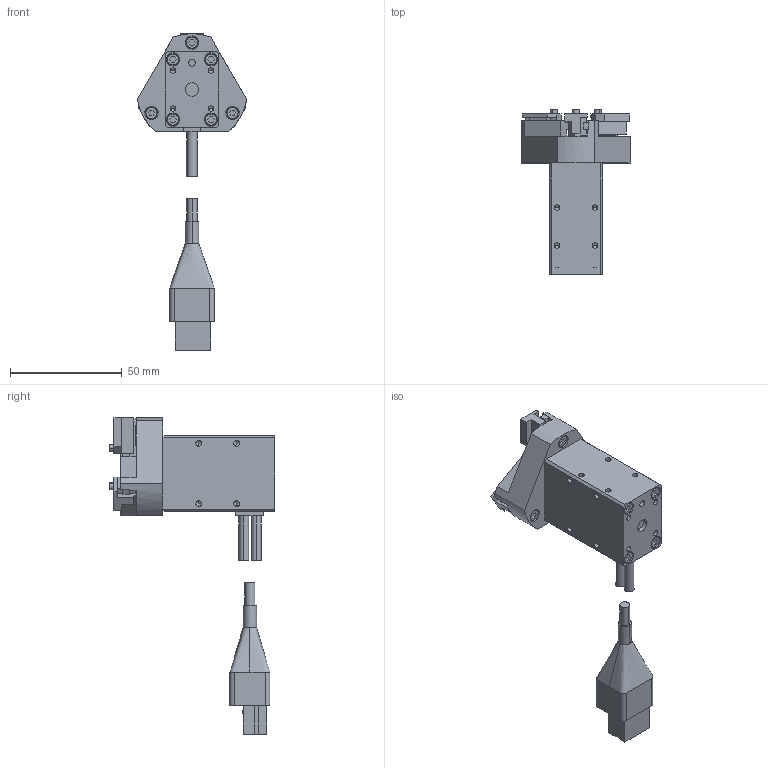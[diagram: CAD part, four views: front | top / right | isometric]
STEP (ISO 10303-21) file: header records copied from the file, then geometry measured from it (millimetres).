
FILE_DESCRIPTION (( 'STEP AP214' ), '1' );
FILE_NAME ('ESG1-ST-2013.STEP', '2009-02-12T07:27:46', ( '風音庵' ), ( '' ), 'SwSTEP 2.0', 'SolidWorks 2007', '' );
FILE_SCHEMA (( 'AUTOMOTIVE_DESIGN' ));
Length unit declared in the file: millimetre
Products named in the file (6): CONNECTOR COVER　BB_ﾃﾞﾌｫﾙﾄ; ESG1-ST-2013 FINGER_蹬怮椔; ESG1-ST-2013 BODY_蹬怮椔; ESG1-ST-2013; CONNECTOR　DK-2100D-12R_ﾃﾞﾌｫﾙﾄ; CNNECTOR丂BB丂ASSY_棉太倌
Assembly tree (7 placements, depth 3):
  ESG1-ST-2013
    CNNECTOR丂BB丂ASSY_棉太倌
      CONNECTOR　DK-2100D-12R_ﾃﾞﾌｫﾙﾄ
      CONNECTOR COVER　BB_ﾃﾞﾌｫﾙﾄ
    ESG1-ST-2013 FINGER_蹬怮椔  x3
    ESG1-ST-2013 BODY_蹬怮椔
Bounding box: 49.16 x 74 x 141.89 mm (x, y, z)
Volume: 72293.8 mm3; surface area: 24110.9 mm2
Topology: 6 solids, 6 shells, 470 faces, 1161 edges, 729 vertices
Faces by surface type: plane 305, cylinder 103, cone 60, bspline 2
Entity records: 15812 total; most frequent: CARTESIAN_POINT 2463, DIRECTION 2019, ORIENTED_EDGE 1946, EDGE_CURVE 973, VECTOR 757, LINE 757, VERTEX_POINT 633, AXIS2_PLACEMENT_3D 631
